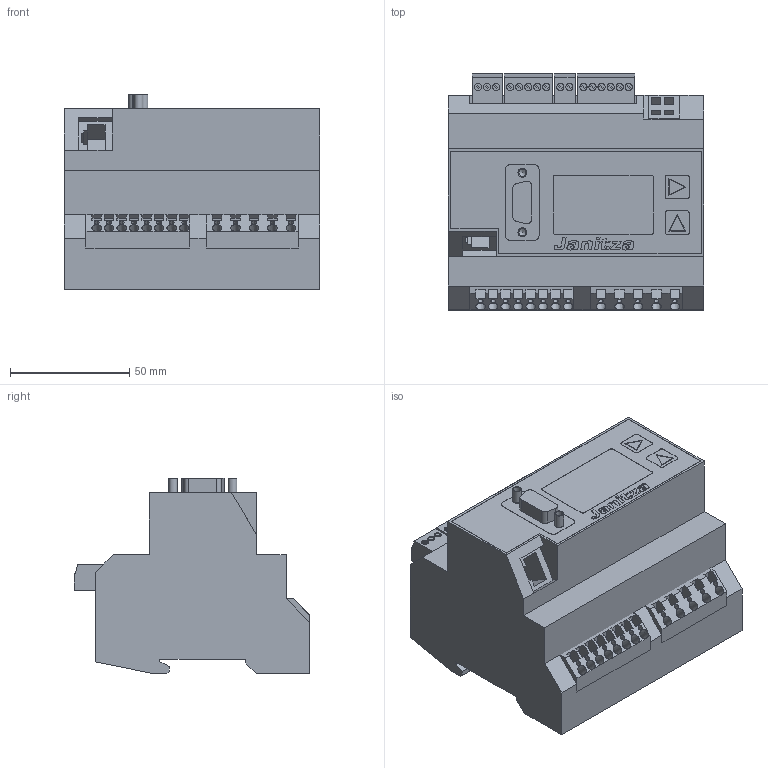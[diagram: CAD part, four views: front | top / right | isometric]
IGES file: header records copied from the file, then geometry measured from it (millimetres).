
Global section: file name: No Iges File Name specified; native system: AutoDesk Inventor R6.1; preprocessor: AutoDesk Inventor Iges Exporter R6.1; author: No Author specified; organization: No Organization specified; date: 20130424.203609; units: millimetre
Bounding box: 107 x 99 x 82 mm (x, y, z)
Surface area: 69869.5 mm2 (no closed solid volume)
Topology: 0 solids, 0 shells, 626 faces, 3448 edges, 3387 vertices
Faces by surface type: plane 459, bspline 87, revolution 80
